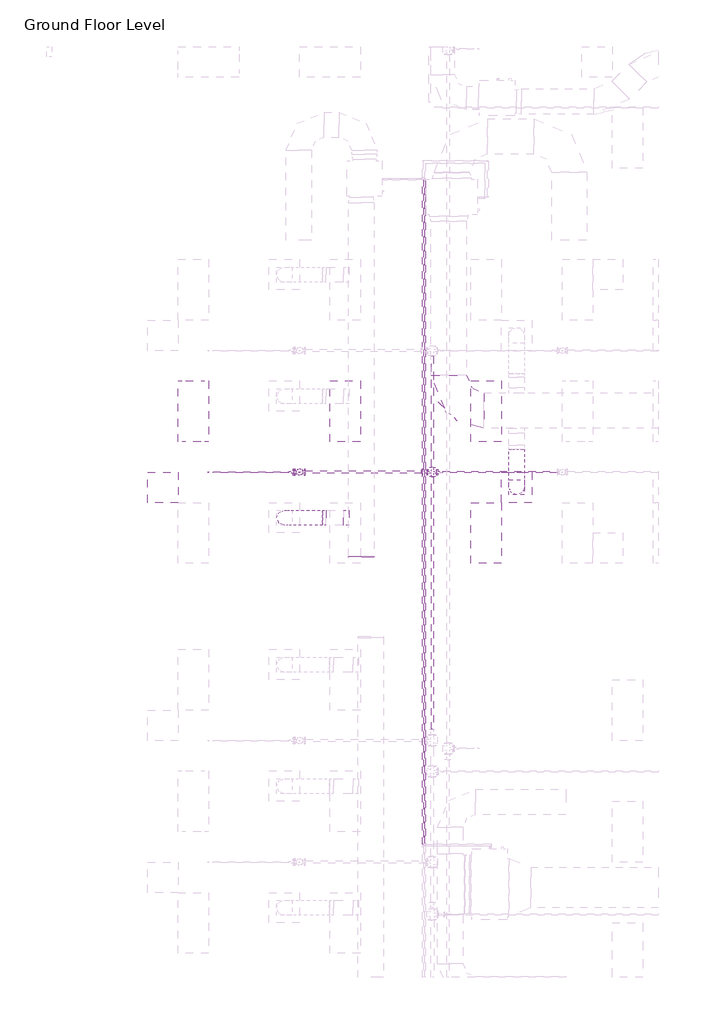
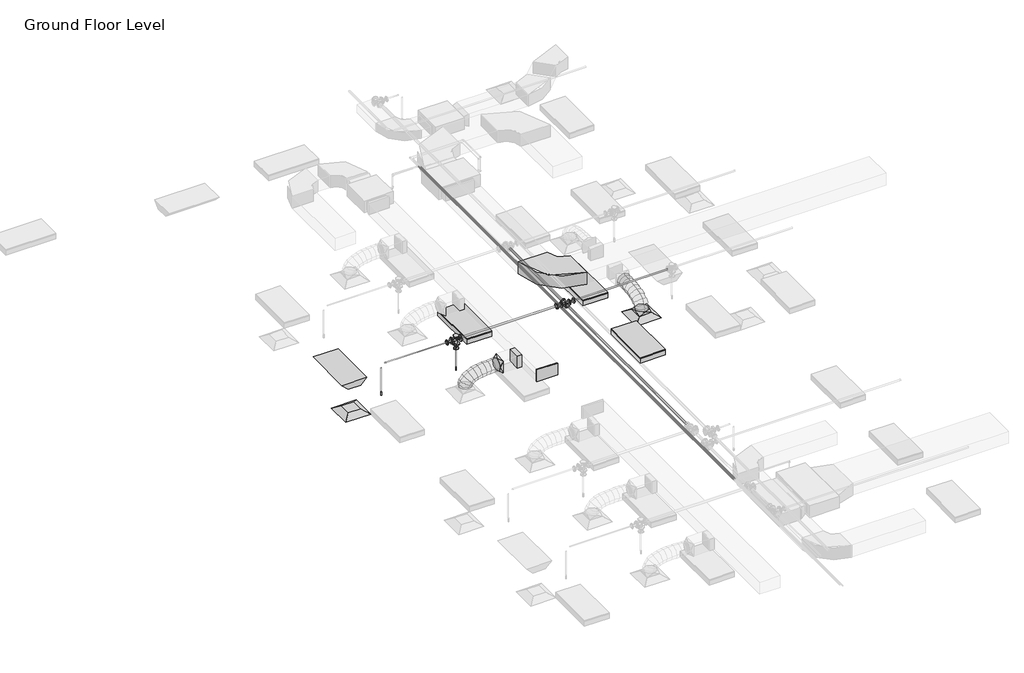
# One storey, part 29 of 68: 9 pipe segments, 6 pipe fittings, 5 duct fittings, 4 light fixtures, 2 air terminals, 2 duct segments, 2 fire suppression terminals.
"""IFC4 building model written with IfcOpenShell, lengths in millimetres."""

from ifc_helpers import new_model, si_unit, point, frame, frame_2d, origin, place, context, project, spatial, circle_curve, ellipse_curve, trimmed, segment, composite_curve, outline, extrude, transform, mapped, element, save
from ifc_brep_helpers import plane_surface, cylinder_surface, advanced_brep
from components import m_return_diffuser_600_x_600_face_300_x_300_connection_ff221211, m_rectangular_elbow_radius_1_w_8a62b27e, m_rectangular_endcap_standard_72d4d00d, m_rectangular_takeoff_standard_2be5eba1, m_rectangular_to_round_transition_angle_45_degree_641efff0, m_sprinkler_dry_pendent_hosted_15_mm_dry_pendent_9bda8e11, m_emergency_recessed_lighting_fixture_600x1200_277_5b10b25d, m_troffer_light_parabolic_rectangular1_0600x1200mm_4_lamp_86473d4a, m_cross_flanged_cs_class_150_standard_46ec961b, m_reducer_flanged_cs_class_150_standard_b6b67c23, m_reducer_flanged_cs_class_150_standard_83138b42, m_reducer_flanged_cs_class_150_standard_dc68ad9d, m_reducer_flanged_cs_class_150_standard_84a20e65, m_tee_round_base_flanged_cs_class_150_standard_ab36f383

model = new_model("IFC4")

# Units and contexts
model_context = context("Model", 3, world=origin())
ifc_project = project(units=[si_unit("LENGTHUNIT", "METRE", prefix="MILLI")], contexts=[model_context])

# Site, building, storey
site = spatial("IfcSite", under=ifc_project)
building = spatial("IfcBuilding", under=site)
storey = spatial("IfcBuildingStorey", under=building, Name="Ground Floor Level", Elevation=900.0)

# Air terminals
placement = place(None, origin())
m_return_diffuser_600_x_600_face_300_x_300_connection_shape = m_return_diffuser_600_x_600_face_300_x_300_connection_ff221211(model_context)
element("IfcAirTerminal", 1, ObjectType="M_Return Diffuser : 600 x 600 Face 300 x 300 Connection", at=placement, inside=storey, context=model_context, shape_type="MappedRepresentation", body=[
    mapped(m_return_diffuser_600_x_600_face_300_x_300_connection_shape, transform((362.7672395, -13664.7846466, 3650.0), x_axis=(1.0, 0.0, 0.0), y_axis=(0.0, 1.0, 0.0), z_axis=(0.0, 0.0, 1.0))),
])
element("IfcAirTerminal", 2, ObjectType="M_Supply Diffuser : 600 x 600 Face 300 x 300 Connection", at=placement, inside=storey, context=model_context, shape_type="MappedRepresentation", body=[
    mapped(m_return_diffuser_600_x_600_face_300_x_300_connection_shape, transform((7352.7672395, -13664.7846466, 3650.0), x_axis=(1.0, 0.0, 0.0), y_axis=(0.0, 1.0, 0.0), z_axis=(0.0, 0.0, 1.0))),
])

# Duct fittings
m_rectangular_elbow_radius_1_w_shape = m_rectangular_elbow_radius_1_w_8a62b27e(model_context)
element("IfcDuctFitting", 3, ObjectType="M_Rectangular Elbow - Radius : 1 W", at=placement, inside=storey, context=model_context, shape_type="MappedRepresentation", body=[
    mapped(m_rectangular_elbow_radius_1_w_shape, transform((6009.9139492, -12149.3358641, 4099.9875), x_axis=(0.0, -0.9999999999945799, -3.2924882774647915e-06), y_axis=(1.0000000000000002, 0.0, 0.0), z_axis=(0.0, -3.2924882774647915e-06, 0.9999999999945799))),
])
m_rectangular_endcap_standard_shape = m_rectangular_endcap_standard_72d4d00d(model_context)
element("IfcDuctFitting", 4, ObjectType="M_Rectangular Endcap : Standard", at=placement, inside=storey, context=model_context, shape_type="MappedRepresentation", body=[
    mapped(m_rectangular_endcap_standard_shape, transform((4282.1581888, -15020.4566353, 4099.9874218), x_axis=(0.0, -0.9999999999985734, -1.689189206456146e-06), y_axis=(1.0, 0.0, 0.0), z_axis=(0.0, -1.689189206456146e-06, 0.9999999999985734))),
])
m_rectangular_takeoff_standard_shape = m_rectangular_takeoff_standard_2be5eba1(model_context)
element("IfcDuctFitting", 5, ObjectType="M_Rectangular Takeoff : Standard", at=placement, inside=storey, context=model_context, shape_type="MappedRepresentation", body=[
    mapped(m_rectangular_takeoff_standard_shape, transform((4032.1581888, -14264.7846466, 4099.9887842), x_axis=(-1.0, 0.0, 0.0), y_axis=(0.0, 1.0, 0.0), z_axis=(0.0, 0.0, -1.0))),
])
m_rectangular_to_round_transition_angle_45_degree_shape = m_rectangular_to_round_transition_angle_45_degree_641efff0(model_context)
element("IfcDuctFitting", 6, ObjectType="M_Rectangular to Round Transition - Angle : 45 Degree", at=placement, inside=storey, context=model_context, shape_type="MappedRepresentation", body=[
    mapped(m_rectangular_to_round_transition_angle_45_degree_shape, transform((3590.1143866, -14264.7846466, 4099.9887842), x_axis=(-1.0, 0.0, 0.0), y_axis=(0.0, -1.0, 0.0), z_axis=(0.0, 0.0, 1.0))),
])
element("IfcDuctFitting", 7, ObjectType="M_Rectangular to Round Transition - Angle : 45 Degree", at=placement, inside=storey, context=model_context, shape_type="MappedRepresentation", body=[
    mapped(m_rectangular_to_round_transition_angle_45_degree_shape, transform((7352.7672395, -13664.7846466, 3751.6), x_axis=(0.0, 0.0, 1.0), y_axis=(-1.0, 0.0, 0.0), z_axis=(0.0, -1.0, 0.0))),
])

# Duct segments
element("IfcDuctSegment", 8, ObjectType="Flex - Round", at=placement, inside=storey, context=model_context, shape_type="AdvancedBrep", body=[
    advanced_brep(
    [(2912.7672395, -14264.7846466, 3826.6), (2762.7672395, -14414.7846466, 3826.6), (2612.7672395, -14264.7846466, 3826.6), (2762.7672395, -14114.7846466, 3826.6), (2912.7672395, -14264.7846466, 3832.2943846), (2762.7672395, -14414.7846466, 3857.9381822), (2612.7672395, -14264.7846466, 3883.5819799), (2762.7672395, -14114.7846466, 3857.9381822), (2913.5207556, -14264.7846466, 3834.4337709), (2779.783483, -14414.7846466, 3906.2507773), (2646.0462104, -14264.7846466, 3978.0677838), (2779.783483, -14114.7846466, 3906.2507773), (2931.1721896, -14264.7846466, 3857.7995724), (2826.9682101, -14414.7846466, 3968.7107998), (2722.7642305, -14264.7846466, 4079.6220272), (2826.9682101, -14114.7846466, 3968.7107998), (2967.4564457, -14264.7846466, 3881.8128947), (2898.5254153, -14414.7846466, 4016.0681503), (2829.5943848, -14264.7846466, 4150.3234058), (2898.5254153, -14114.7846466, 4016.0681503), (3032.2165497, -14264.7846466, 3906.4878092), (2988.6590932, -14414.7846466, 4050.4109116), (2945.1016367, -14264.7846466, 4194.334014), (2988.6590932, -14114.7846466, 4050.4109116), (3118.131028, -14264.7846466, 3926.0360972), (3091.5732386, -14414.7846466, 4073.8271669), (3065.0154491, -14264.7846466, 4221.6182365), (3091.5732386, -14114.7846466, 4073.8271669), (3216.6200238, -14264.7846466, 3939.1004669), (3201.4718459, -14414.7846466, 4088.4049988), (3186.3236681, -14264.7846466, 4237.7095308), (3201.4718459, -14114.7846466, 4088.4049988), (3320.0621185, -14264.7846466, 3946.3892735), (3312.55891, -14414.7846466, 4096.2324904), (3305.0557014, -14264.7846466, 4246.0757073), (3312.55891, -14114.7846466, 4096.2324904), (3421.7286729, -14264.7846466, 3949.4114365), (3419.0384253, -14414.7846466, 4099.3977246), (3416.3481777, -14264.7846466, 4249.3840127), (3419.0384253, -14114.7846466, 4099.3977246), (3516.0371696, -14264.7846466, 3949.9916227), (3515.1143866, -14414.7846466, 4099.9887842), (3514.1916035, -14264.7846466, 4249.9859457), (3515.1143866, -14114.7846466, 4099.9887842)],
    [
        (0, 1, circle_curve(frame((2762.7672395, -14264.7846466, 3826.6), z_axis=(0.0, 0.0, -1.0), x_axis=(1.0, 0.0, 0.0)), 150.0)),
        (1, 2, circle_curve(frame((2762.7672395, -14264.7846466, 3826.6), z_axis=(0.0, 0.0, -1.0), x_axis=(1.0, 0.0, 0.0)), 150.0)),
        (2, 3, circle_curve(frame((2762.7672395, -14264.7846466, 3826.6), z_axis=(0.0, 0.0, -1.0), x_axis=(1.0, 0.0, 0.0)), 150.0)),
        (3, 0, circle_curve(frame((2762.7672395, -14264.7846466, 3826.6), z_axis=(0.0, 0.0, -1.0), x_axis=(1.0, 0.0, 0.0)), 150.0)),
        (0, 4),
        (4, 5, ellipse_curve(frame((2762.7672395, -14264.7846466, 3857.9381822), z_axis=(-0.1685138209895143, 0.0, -0.9856992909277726), x_axis=(0.9856992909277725, 0.0, -0.16851382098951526)), 152.176228, 150.0)),
        (5, 1),
        (5, 6, ellipse_curve(frame((2762.7672395, -14264.7846466, 3857.9381822), z_axis=(-0.1685138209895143, 0.0, -0.9856992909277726), x_axis=(0.9856992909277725, 0.0, -0.16851382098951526)), 152.176228, 150.0)),
        (6, 2),
        (6, 7, ellipse_curve(frame((2762.7672395, -14264.7846466, 3857.9381822), z_axis=(-0.1685138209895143, 0.0, -0.9856992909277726), x_axis=(0.9856992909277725, 0.0, -0.16851382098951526)), 152.176228, 150.0)),
        (7, 3),
        (7, 4, ellipse_curve(frame((2762.7672395, -14264.7846466, 3857.9381822), z_axis=(-0.1685138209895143, 0.0, -0.9856992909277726), x_axis=(0.9856992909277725, 0.0, -0.16851382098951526)), 152.176228, 150.0)),
        (4, 8),
        (8, 9, ellipse_curve(frame((2779.783483, -14264.7846466, 3906.2507773), z_axis=(-0.47310177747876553, 0.0, -0.881007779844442), x_axis=(0.8810077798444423, 0.0, -0.4731017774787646)), 151.800331, 150.0)),
        (9, 5),
        (9, 10, ellipse_curve(frame((2779.783483, -14264.7846466, 3906.2507773), z_axis=(-0.47310177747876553, 0.0, -0.881007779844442), x_axis=(0.8810077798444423, 0.0, -0.4731017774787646)), 151.800331, 150.0)),
        (10, 6),
        (10, 11, ellipse_curve(frame((2779.783483, -14264.7846466, 3906.2507773), z_axis=(-0.47310177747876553, 0.0, -0.881007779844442), x_axis=(0.8810077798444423, 0.0, -0.4731017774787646)), 151.800331, 150.0)),
        (11, 7),
        (11, 8, ellipse_curve(frame((2779.783483, -14264.7846466, 3906.2507773), z_axis=(-0.47310177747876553, 0.0, -0.881007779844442), x_axis=(0.8810077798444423, 0.0, -0.4731017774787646)), 151.800331, 150.0)),
        (8, 12),
        (12, 13, ellipse_curve(frame((2826.9682101, -14264.7846466, 3968.7107998), z_axis=(-0.7288000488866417, 0.0, -0.6847265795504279), x_axis=(0.6847265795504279, 0.0, -0.7288000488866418)), 152.1833424, 150.0)),
        (13, 9),
        (13, 14, ellipse_curve(frame((2826.9682101, -14264.7846466, 3968.7107998), z_axis=(-0.7288000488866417, 0.0, -0.6847265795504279), x_axis=(0.6847265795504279, 0.0, -0.7288000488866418)), 152.1833424, 150.0)),
        (14, 10),
        (14, 15, ellipse_curve(frame((2826.9682101, -14264.7846466, 3968.7107998), z_axis=(-0.7288000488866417, 0.0, -0.6847265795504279), x_axis=(0.6847265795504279, 0.0, -0.7288000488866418)), 152.1833424, 150.0)),
        (15, 11),
        (15, 12, ellipse_curve(frame((2826.9682101, -14264.7846466, 3968.7107998), z_axis=(-0.7288000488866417, 0.0, -0.6847265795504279), x_axis=(0.6847265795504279, 0.0, -0.7288000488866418)), 152.1833424, 150.0)),
        (12, 16),
        (16, 17, ellipse_curve(frame((2898.5254153, -14264.7846466, 4016.0681503), z_axis=(-0.8895962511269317, 0.0, -0.45674775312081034), x_axis=(0.45674775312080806, 0.0, -0.889596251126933)), 150.9170653, 150.0)),
        (17, 13),
        (17, 18, ellipse_curve(frame((2898.5254153, -14264.7846466, 4016.0681503), z_axis=(-0.8895962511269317, 0.0, -0.45674775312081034), x_axis=(0.45674775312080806, 0.0, -0.889596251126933)), 150.9170653, 150.0)),
        (18, 14),
        (18, 19, ellipse_curve(frame((2898.5254153, -14264.7846466, 4016.0681503), z_axis=(-0.8895962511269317, 0.0, -0.45674775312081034), x_axis=(0.45674775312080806, 0.0, -0.889596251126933)), 150.9170653, 150.0)),
        (19, 15),
        (19, 16, ellipse_curve(frame((2898.5254153, -14264.7846466, 4016.0681503), z_axis=(-0.8895962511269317, 0.0, -0.45674775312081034), x_axis=(0.45674775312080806, 0.0, -0.889596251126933)), 150.9170653, 150.0)),
        (16, 20),
        (20, 21, ellipse_curve(frame((2988.6590932, -14264.7846466, 4050.4109116), z_axis=(-0.9571269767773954, 0.0, -0.28966869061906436), x_axis=(0.28966869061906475, 0.0, -0.9571269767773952)), 150.3699153, 150.0)),
        (21, 17),
        (21, 22, ellipse_curve(frame((2988.6590932, -14264.7846466, 4050.4109116), z_axis=(-0.9571269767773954, 0.0, -0.28966869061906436), x_axis=(0.28966869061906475, 0.0, -0.9571269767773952)), 150.3699153, 150.0)),
        (22, 18),
        (22, 23, ellipse_curve(frame((2988.6590932, -14264.7846466, 4050.4109116), z_axis=(-0.9571269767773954, 0.0, -0.28966869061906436), x_axis=(0.28966869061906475, 0.0, -0.9571269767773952)), 150.3699153, 150.0)),
        (23, 19),
        (23, 20, ellipse_curve(frame((2988.6590932, -14264.7846466, 4050.4109116), z_axis=(-0.9571269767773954, 0.0, -0.28966869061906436), x_axis=(0.28966869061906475, 0.0, -0.9571269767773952)), 150.3699153, 150.0)),
        (20, 24),
        (24, 25, ellipse_curve(frame((3091.5732386, -14264.7846466, 4073.8271669), z_axis=(-0.9842350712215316, 0.0, -0.17686527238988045), x_axis=(0.1768652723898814, 0.0, -0.9842350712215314)), 150.1583046, 150.0)),
        (25, 21),
        (25, 26, ellipse_curve(frame((3091.5732386, -14264.7846466, 4073.8271669), z_axis=(-0.9842350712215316, 0.0, -0.17686527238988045), x_axis=(0.1768652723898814, 0.0, -0.9842350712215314)), 150.1583046, 150.0)),
        (26, 22),
        (26, 27, ellipse_curve(frame((3091.5732386, -14264.7846466, 4073.8271669), z_axis=(-0.9842350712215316, 0.0, -0.17686527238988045), x_axis=(0.1768652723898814, 0.0, -0.9842350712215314)), 150.1583046, 150.0)),
        (27, 23),
        (27, 24, ellipse_curve(frame((3091.5732386, -14264.7846466, 4073.8271669), z_axis=(-0.9842350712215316, 0.0, -0.17686527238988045), x_axis=(0.1768652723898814, 0.0, -0.9842350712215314)), 150.1583046, 150.0)),
        (24, 28),
        (28, 29, ellipse_curve(frame((3201.4718459, -14264.7846466, 4088.4049988), z_axis=(-0.994892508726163, 0.0, -0.10094006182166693), x_axis=(0.10094006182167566, 0.0, -0.9948925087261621)), 150.0710184, 150.0)),
        (29, 25),
        (29, 30, ellipse_curve(frame((3201.4718459, -14264.7846466, 4088.4049988), z_axis=(-0.994892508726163, 0.0, -0.10094006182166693), x_axis=(0.10094006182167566, 0.0, -0.9948925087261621)), 150.0710184, 150.0)),
        (30, 26),
        (30, 31, ellipse_curve(frame((3201.4718459, -14264.7846466, 4088.4049988), z_axis=(-0.994892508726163, 0.0, -0.10094006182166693), x_axis=(0.10094006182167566, 0.0, -0.9948925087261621)), 150.0710184, 150.0)),
        (31, 27),
        (31, 28, ellipse_curve(frame((3201.4718459, -14264.7846466, 4088.4049988), z_axis=(-0.994892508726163, 0.0, -0.10094006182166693), x_axis=(0.10094006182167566, 0.0, -0.9948925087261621)), 150.0710184, 150.0)),
        (28, 32),
        (32, 33, ellipse_curve(frame((3312.55891, -14264.7846466, 4096.2324904), z_axis=(-0.998748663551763, 0.0, -0.05001106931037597), x_axis=(0.050011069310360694, 0.0, -0.998748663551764)), 150.0309561, 150.0)),
        (33, 29),
        (33, 34, ellipse_curve(frame((3312.55891, -14264.7846466, 4096.2324904), z_axis=(-0.998748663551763, 0.0, -0.05001106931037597), x_axis=(0.050011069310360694, 0.0, -0.998748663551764)), 150.0309561, 150.0)),
        (34, 30),
        (34, 35, ellipse_curve(frame((3312.55891, -14264.7846466, 4096.2324904), z_axis=(-0.998748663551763, 0.0, -0.05001106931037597), x_axis=(0.050011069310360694, 0.0, -0.998748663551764)), 150.0309561, 150.0)),
        (35, 31),
        (35, 32, ellipse_curve(frame((3312.55891, -14264.7846466, 4096.2324904), z_axis=(-0.998748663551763, 0.0, -0.05001106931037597), x_axis=(0.050011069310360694, 0.0, -0.998748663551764)), 150.0309561, 150.0)),
        (32, 36),
        (36, 37, ellipse_curve(frame((3419.0384253, -14264.7846466, 4099.3977246), z_axis=(-0.9998391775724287, 0.0, -0.01793373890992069), x_axis=(0.017933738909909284, 1.8193051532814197e-12, -0.9998391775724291)), 150.0104131, 150.0)),
        (37, 33),
        (37, 38, ellipse_curve(frame((3419.0384253, -14264.7846466, 4099.3977246), z_axis=(-0.9998391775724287, 0.0, -0.01793373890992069), x_axis=(0.017933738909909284, 1.8193051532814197e-12, -0.9998391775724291)), 150.0104131, 150.0)),
        (38, 34),
        (38, 39, ellipse_curve(frame((3419.0384253, -14264.7846466, 4099.3977246), z_axis=(-0.9998391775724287, 0.0, -0.01793373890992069), x_axis=(0.017933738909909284, 1.8193051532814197e-12, -0.9998391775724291)), 150.0104131, 150.0)),
        (39, 35),
        (39, 36, ellipse_curve(frame((3419.0384253, -14264.7846466, 4099.3977246), z_axis=(-0.9998391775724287, 0.0, -0.01793373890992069), x_axis=(0.017933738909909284, 1.8193051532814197e-12, -0.9998391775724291)), 150.0104131, 150.0)),
        (36, 40),
        (40, 41, circle_curve(frame((3515.1143866, -14264.7846466, 4099.9887842), z_axis=(-0.9999810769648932, 0.0, -0.0061518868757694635), x_axis=(0.0061518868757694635, 0.0, -0.9999810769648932)), 150.0)),
        (41, 37),
        (41, 42, circle_curve(frame((3515.1143866, -14264.7846466, 4099.9887842), z_axis=(-0.9999810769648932, 0.0, -0.0061518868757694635), x_axis=(0.0061518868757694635, 0.0, -0.9999810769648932)), 150.0)),
        (42, 38),
        (42, 43, circle_curve(frame((3515.1143866, -14264.7846466, 4099.9887842), z_axis=(-0.9999810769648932, 0.0, -0.0061518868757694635), x_axis=(0.0061518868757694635, 0.0, -0.9999810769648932)), 150.0)),
        (43, 39),
        (43, 40, circle_curve(frame((3515.1143866, -14264.7846466, 4099.9887842), z_axis=(-0.9999810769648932, 0.0, -0.0061518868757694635), x_axis=(0.0061518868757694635, 0.0, -0.9999810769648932)), 150.0)),
    ],
    [
        plane_surface(frame((2762.7672395, -14414.7846466, 3826.6), z_axis=(0.0, 0.0, -1.0), x_axis=(1.0, 0.0, 0.0))),
        cylinder_surface(frame((2762.7672395, -14264.7846466, 3826.6), z_axis=(0.0, 0.0, -1.0), x_axis=(1.0, 0.0, 0.0)), 150.0),
        cylinder_surface(frame((2762.7672395, -14264.7846466, 3857.9381822), z_axis=(-0.33220790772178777, 0.0, -0.9432061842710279), x_axis=(0.9432061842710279, 0.0, -0.33220790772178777)), 150.0),
        cylinder_surface(frame((2779.783483, -14264.7846466, 3906.2507773), z_axis=(-0.6027738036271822, 0.0, -0.7979121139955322), x_axis=(0.7979121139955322, 0.0, -0.6027738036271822)), 150.0),
        cylinder_surface(frame((2826.9682101, -14264.7846466, 3968.7107998), z_axis=(-0.8339144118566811, 0.0, -0.5518937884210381), x_axis=(0.5518937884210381, 0.0, -0.8339144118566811)), 150.0),
        cylinder_surface(frame((2898.5254153, -14264.7846466, 4016.0681503), z_axis=(-0.9344666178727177, 0.0, -0.35605075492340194), x_axis=(0.35605075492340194, 0.0, -0.9344666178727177)), 150.0),
        cylinder_surface(frame((2988.6590932, -14264.7846466, 4050.4109116), z_axis=(-0.9750782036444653, 0.0, -0.22186143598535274), x_axis=(0.22186143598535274, 0.0, -0.9750782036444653)), 150.0),
        cylinder_surface(frame((3091.5732386, -14264.7846466, 4073.8271669), z_axis=(-0.9913166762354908, 0.0, -0.1314961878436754), x_axis=(0.1314961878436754, 0.0, -0.9913166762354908)), 150.0),
        cylinder_surface(frame((3201.4718459, -14264.7846466, 4088.4049988), z_axis=(-0.9975267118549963, 0.0, -0.07028839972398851), x_axis=(0.07028839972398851, 0.0, -0.9975267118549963)), 150.0),
        cylinder_surface(frame((3312.55891, -14264.7846466, 4096.2324904), z_axis=(-0.9995584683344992, 0.0, -0.02971310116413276), x_axis=(0.02971310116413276, 0.0, -0.9995584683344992)), 150.0),
        cylinder_surface(frame((3419.0384253, -14264.7846466, 4099.3977246), z_axis=(-0.9999810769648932, 0.0, -0.0061518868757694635), x_axis=(0.0061518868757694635, 0.0, -0.9999810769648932)), 150.0),
        plane_surface(frame((3515.1143866, -14414.7846466, 4099.9887842), z_axis=(0.9999810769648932, 0.0, 0.006151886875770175), x_axis=(0.006151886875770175, -3.666400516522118e-12, -0.9999810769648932))),
    ],
    [
        (0, [[1, 2, 3, 4]]),
        (1, [[-1, 5, 6, 7]]),
        (1, [[-2, -7, 8, 9]]),
        (1, [[-3, -9, 10, 11]]),
        (1, [[-4, -11, 12, -5]]),
        (2, [[-6, 13, 14, 15]]),
        (2, [[-8, -15, 16, 17]]),
        (2, [[-10, -17, 18, 19]]),
        (2, [[-12, -19, 20, -13]]),
        (3, [[-14, 21, 22, 23]]),
        (3, [[-16, -23, 24, 25]]),
        (3, [[-18, -25, 26, 27]]),
        (3, [[-20, -27, 28, -21]]),
        (4, [[-22, 29, 30, 31]]),
        (4, [[-24, -31, 32, 33]]),
        (4, [[-26, -33, 34, 35]]),
        (4, [[-28, -35, 36, -29]]),
        (5, [[-30, 37, 38, 39]]),
        (5, [[-32, -39, 40, 41]]),
        (5, [[-34, -41, 42, 43]]),
        (5, [[-36, -43, 44, -37]]),
        (6, [[-38, 45, 46, 47]]),
        (6, [[-40, -47, 48, 49]]),
        (6, [[-42, -49, 50, 51]]),
        (6, [[-44, -51, 52, -45]]),
        (7, [[-46, 53, 54, 55]]),
        (7, [[-48, -55, 56, 57]]),
        (7, [[-50, -57, 58, 59]]),
        (7, [[-52, -59, 60, -53]]),
        (8, [[-54, 61, 62, 63]]),
        (8, [[-56, -63, 64, 65]]),
        (8, [[-58, -65, 66, 67]]),
        (8, [[-60, -67, 68, -61]]),
        (9, [[-62, 69, 70, 71]]),
        (9, [[-64, -71, 72, 73]]),
        (9, [[-66, -73, 74, 75]]),
        (9, [[-68, -75, 76, -69]]),
        (10, [[-70, 77, 78, 79]]),
        (10, [[-72, -79, 80, 81]]),
        (10, [[-74, -81, 82, 83]]),
        (10, [[-76, -83, 84, -77]]),
        (11, [[-84, -82, -80, -78]]),
    ],
),
])
element("IfcDuctSegment", 9, ObjectType="Flex - Round", at=placement, inside=storey, context=model_context, shape_type="AdvancedBrep", body=[
    advanced_brep(
    [(7502.7672395, -13664.7846466, 3826.6), (7352.7672395, -13814.7846466, 3826.6), (7202.7672395, -13664.7846466, 3826.6), (7352.7672395, -13514.7846466, 3826.6), (7502.7672395, -13664.7846466, 3857.9382361), (7352.7672395, -13814.7846466, 3883.5820996), (7202.7672395, -13664.7846466, 3857.9382361), (7352.7672395, -13514.7846466, 3832.2943726), (7502.7672395, -13647.7683675, 3906.2508008), (7352.7672395, -13781.5055592, 3978.0679769), (7202.7672395, -13647.7683675, 3906.2508008), (7352.7672395, -13514.0311758, 3834.4336246), (7502.7672395, -13600.5835435, 3968.710741), (7352.7672395, -13704.7873032, 4079.6221903), (7202.7672395, -13600.5835435, 3968.710741), (7352.7672395, -13496.3797837, 3857.7992917), (7502.7672395, -13529.0261948, 4016.0679312), (7352.7672395, -13597.9568789, 4150.3233665), (7202.7672395, -13529.0261948, 4016.0679312), (7352.7672395, -13460.0955107, 3881.8124958), (7502.7672395, -13438.8923417, 4050.4104815), (7352.7672395, -13482.4494195, 4194.3336978), (7202.7672395, -13438.8923417, 4050.4104815), (7352.7672395, -13395.3352638, 3906.4872652), (7502.7672395, -13335.9780043, 4073.8265025), (7352.7672395, -13362.5354348, 4221.6176356), (7202.7672395, -13335.9780043, 4073.8265025), (7352.7672395, -13309.4205737, 3926.0353694), (7502.7672395, -13226.0792027, 4088.4041045), (7352.7672395, -13241.2270687, 4237.7086671), (7202.7672395, -13226.0792027, 4088.4041045), (7352.7672395, -13210.9313368, 3939.0995418), (7502.7672395, -13114.9919573, 4096.2313978), (7352.7672395, -13122.4949231, 4246.074626), (7202.7672395, -13114.9919573, 4096.2313978), (7352.7672395, -13107.4889914, 3946.3881695), (7502.7672395, -13008.5122881, 4099.3964928), (7352.7672395, -13011.2023931, 4249.3827828), (7202.7672395, -13008.5122881, 4099.3964928), (7352.7672395, -13005.8221831, 3949.4102029), (7502.7672395, -12912.4362153, 4099.9875), (7352.7672395, -12911.5135153, 3949.9903379), (7202.7672395, -12912.4362153, 4099.9875), (7352.7672395, -12913.3589154, 4249.9846621)],
    [
        (0, 1, circle_curve(frame((7352.7672395, -13664.7846466, 3826.6), z_axis=(0.0, 0.0, -1.0), x_axis=(1.0, 0.0, 0.0)), 150.0)),
        (1, 2, circle_curve(frame((7352.7672395, -13664.7846466, 3826.6), z_axis=(0.0, 0.0, -1.0), x_axis=(1.0, 0.0, 0.0)), 150.0)),
        (2, 3, circle_curve(frame((7352.7672395, -13664.7846466, 3826.6), z_axis=(0.0, 0.0, -1.0), x_axis=(1.0, 0.0, 0.0)), 150.0)),
        (3, 0, circle_curve(frame((7352.7672395, -13664.7846466, 3826.6), z_axis=(0.0, 0.0, -1.0), x_axis=(1.0, 0.0, 0.0)), 150.0)),
        (0, 4),
        (4, 5, ellipse_curve(frame((7352.7672395, -13664.7846466, 3857.9382361), z_axis=(0.0, -0.16851424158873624, -0.9856992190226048), x_axis=(0.0, 0.9856992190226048, -0.16851424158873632)), 152.1762391, 150.0)),
        (5, 1),
        (5, 6, ellipse_curve(frame((7352.7672395, -13664.7846466, 3857.9382361), z_axis=(0.0, -0.16851424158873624, -0.9856992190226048), x_axis=(0.0, 0.9856992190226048, -0.16851424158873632)), 152.1762391, 150.0)),
        (6, 2),
        (6, 7, ellipse_curve(frame((7352.7672395, -13664.7846466, 3857.9382361), z_axis=(0.0, -0.16851424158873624, -0.9856992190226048), x_axis=(0.0, 0.9856992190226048, -0.16851424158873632)), 152.1762391, 150.0)),
        (7, 3),
        (7, 4, ellipse_curve(frame((7352.7672395, -13664.7846466, 3857.9382361), z_axis=(0.0, -0.16851424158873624, -0.9856992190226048), x_axis=(0.0, 0.9856992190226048, -0.16851424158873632)), 152.1762391, 150.0)),
        (4, 8),
        (8, 9, ellipse_curve(frame((7352.7672395, -13647.7683675, 3906.2508008), z_axis=(0.0, -0.4731028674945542, -0.8810071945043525), x_axis=(0.0, 0.8810071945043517, -0.47310286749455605)), 151.80034, 150.0)),
        (9, 5),
        (9, 10, ellipse_curve(frame((7352.7672395, -13647.7683675, 3906.2508008), z_axis=(0.0, -0.4731028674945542, -0.8810071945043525), x_axis=(0.0, 0.8810071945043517, -0.47310286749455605)), 151.80034, 150.0)),
        (10, 6),
        (10, 11, ellipse_curve(frame((7352.7672395, -13647.7683675, 3906.2508008), z_axis=(0.0, -0.4731028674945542, -0.8810071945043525), x_axis=(0.0, 0.8810071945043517, -0.47310286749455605)), 151.80034, 150.0)),
        (11, 7),
        (11, 8, ellipse_curve(frame((7352.7672395, -13647.7683675, 3906.2508008), z_axis=(0.0, -0.4731028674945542, -0.8810071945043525), x_axis=(0.0, 0.8810071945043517, -0.47310286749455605)), 151.80034, 150.0)),
        (8, 12),
        (12, 13, ellipse_curve(frame((7352.7672395, -13600.5835435, 3968.710741), z_axis=(0.0, -0.728801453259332, -0.6847250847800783), x_axis=(0.0, 0.6847250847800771, -0.7288014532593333)), 152.1833536, 150.0)),
        (13, 9),
        (13, 14, ellipse_curve(frame((7352.7672395, -13600.5835435, 3968.710741), z_axis=(0.0, -0.728801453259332, -0.6847250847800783), x_axis=(0.0, 0.6847250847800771, -0.7288014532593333)), 152.1833536, 150.0)),
        (14, 10),
        (14, 15, ellipse_curve(frame((7352.7672395, -13600.5835435, 3968.710741), z_axis=(0.0, -0.728801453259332, -0.6847250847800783), x_axis=(0.0, 0.6847250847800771, -0.7288014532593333)), 152.1833536, 150.0)),
        (15, 11),
        (15, 12, ellipse_curve(frame((7352.7672395, -13600.5835435, 3968.710741), z_axis=(0.0, -0.728801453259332, -0.6847250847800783), x_axis=(0.0, 0.6847250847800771, -0.7288014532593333)), 152.1833536, 150.0)),
        (12, 16),
        (16, 17, ellipse_curve(frame((7352.7672395, -13529.0261948, 4016.0679312), z_axis=(0.0, -0.889597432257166, -0.45674545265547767), x_axis=(0.0, 0.4567454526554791, -0.8895974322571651)), 150.9170671, 150.0)),
        (17, 13),
        (17, 18, ellipse_curve(frame((7352.7672395, -13529.0261948, 4016.0679312), z_axis=(0.0, -0.889597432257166, -0.45674545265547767), x_axis=(0.0, 0.4567454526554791, -0.8895974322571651)), 150.9170671, 150.0)),
        (18, 14),
        (18, 19, ellipse_curve(frame((7352.7672395, -13529.0261948, 4016.0679312), z_axis=(0.0, -0.889597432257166, -0.45674545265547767), x_axis=(0.0, 0.4567454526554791, -0.8895974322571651)), 150.9170671, 150.0)),
        (19, 15),
        (19, 16, ellipse_curve(frame((7352.7672395, -13529.0261948, 4016.0679312), z_axis=(0.0, -0.889597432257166, -0.45674545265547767), x_axis=(0.0, 0.4567454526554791, -0.8895974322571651)), 150.9170671, 150.0)),
        (16, 20),
        (20, 21, ellipse_curve(frame((7352.7672395, -13438.8923417, 4050.4104815), z_axis=(0.0, -0.9571277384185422, -0.28966617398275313), x_axis=(0.0, 0.28966617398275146, -0.9571277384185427)), 150.3699146, 150.0)),
        (21, 17),
        (21, 22, ellipse_curve(frame((7352.7672395, -13438.8923417, 4050.4104815), z_axis=(0.0, -0.9571277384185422, -0.28966617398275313), x_axis=(0.0, 0.28966617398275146, -0.9571277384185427)), 150.3699146, 150.0)),
        (22, 18),
        (22, 23, ellipse_curve(frame((7352.7672395, -13438.8923417, 4050.4104815), z_axis=(0.0, -0.9571277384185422, -0.28966617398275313), x_axis=(0.0, 0.28966617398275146, -0.9571277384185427)), 150.3699146, 150.0)),
        (23, 19),
        (23, 20, ellipse_curve(frame((7352.7672395, -13438.8923417, 4050.4104815), z_axis=(0.0, -0.9571277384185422, -0.28966617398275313), x_axis=(0.0, 0.28966617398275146, -0.9571277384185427)), 150.3699146, 150.0)),
        (20, 24),
        (24, 25, ellipse_curve(frame((7352.7672395, -13335.9780043, 4073.8265025), z_axis=(0.0, -0.9842355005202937, -0.17686288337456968), x_axis=(0.0, 0.17686288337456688, -0.9842355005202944)), 150.1583036, 150.0)),
        (25, 21),
        (25, 26, ellipse_curve(frame((7352.7672395, -13335.9780043, 4073.8265025), z_axis=(0.0, -0.9842355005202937, -0.17686288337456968), x_axis=(0.0, 0.17686288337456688, -0.9842355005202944)), 150.1583036, 150.0)),
        (26, 22),
        (26, 27, ellipse_curve(frame((7352.7672395, -13335.9780043, 4073.8265025), z_axis=(0.0, -0.9842355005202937, -0.17686288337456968), x_axis=(0.0, 0.17686288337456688, -0.9842355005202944)), 150.1583036, 150.0)),
        (27, 23),
        (27, 24, ellipse_curve(frame((7352.7672395, -13335.9780043, 4073.8265025), z_axis=(0.0, -0.9842355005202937, -0.17686288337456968), x_axis=(0.0, 0.17686288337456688, -0.9842355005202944)), 150.1583036, 150.0)),
        (24, 28),
        (28, 29, ellipse_curve(frame((7352.7672395, -13226.0792027, 4088.4041045), z_axis=(0.0, -0.9948927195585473, -0.10093798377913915), x_axis=(0.0, 0.10093798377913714, -0.9948927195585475)), 150.0710174, 150.0)),
        (29, 25),
        (29, 30, ellipse_curve(frame((7352.7672395, -13226.0792027, 4088.4041045), z_axis=(0.0, -0.9948927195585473, -0.10093798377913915), x_axis=(0.0, 0.10093798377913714, -0.9948927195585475)), 150.0710174, 150.0)),
        (30, 26),
        (30, 31, ellipse_curve(frame((7352.7672395, -13226.0792027, 4088.4041045), z_axis=(0.0, -0.9948927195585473, -0.10093798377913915), x_axis=(0.0, 0.10093798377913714, -0.9948927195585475)), 150.0710174, 150.0)),
        (31, 27),
        (31, 28, ellipse_curve(frame((7352.7672395, -13226.0792027, 4088.4041045), z_axis=(0.0, -0.9948927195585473, -0.10093798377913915), x_axis=(0.0, 0.10093798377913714, -0.9948927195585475)), 150.0710174, 150.0)),
        (28, 32),
        (32, 33, ellipse_curve(frame((7352.7672395, -13114.9919573, 4096.2313978), z_axis=(0.0, -0.9987487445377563, -0.050009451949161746), x_axis=(0.0, 0.05000945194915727, -0.9987487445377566)), 150.0309553, 150.0)),
        (33, 29),
        (33, 34, ellipse_curve(frame((7352.7672395, -13114.9919573, 4096.2313978), z_axis=(0.0, -0.9987487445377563, -0.050009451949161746), x_axis=(0.0, 0.05000945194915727, -0.9987487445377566)), 150.0309553, 150.0)),
        (34, 30),
        (34, 35, ellipse_curve(frame((7352.7672395, -13114.9919573, 4096.2313978), z_axis=(0.0, -0.9987487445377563, -0.050009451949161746), x_axis=(0.0, 0.05000945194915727, -0.9987487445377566)), 150.0309553, 150.0)),
        (35, 31),
        (35, 32, ellipse_curve(frame((7352.7672395, -13114.9919573, 4096.2313978), z_axis=(0.0, -0.9987487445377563, -0.050009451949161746), x_axis=(0.0, 0.05000945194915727, -0.9987487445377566)), 150.0309553, 150.0)),
        (32, 36),
        (36, 37, ellipse_curve(frame((7352.7672395, -13008.5122881, 4099.3964928), z_axis=(0.0, -0.9998391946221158, -0.017932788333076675), x_axis=(0.0, 0.01793278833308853, -0.9998391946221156)), 150.0104124, 150.0)),
        (37, 33),
        (37, 38, ellipse_curve(frame((7352.7672395, -13008.5122881, 4099.3964928), z_axis=(0.0, -0.9998391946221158, -0.017932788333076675), x_axis=(0.0, 0.01793278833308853, -0.9998391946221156)), 150.0104124, 150.0)),
        (38, 34),
        (38, 39, ellipse_curve(frame((7352.7672395, -13008.5122881, 4099.3964928), z_axis=(0.0, -0.9998391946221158, -0.017932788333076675), x_axis=(0.0, 0.01793278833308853, -0.9998391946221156)), 150.0104124, 150.0)),
        (39, 35),
        (39, 36, ellipse_curve(frame((7352.7672395, -13008.5122881, 4099.3964928), z_axis=(0.0, -0.9998391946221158, -0.017932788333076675), x_axis=(0.0, 0.01793278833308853, -0.9998391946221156)), 150.0104124, 150.0)),
        (40, 41, circle_curve(frame((7352.7672395, -12912.4362153, 4099.9875), z_axis=(0.0, 0.9999810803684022, 0.0061513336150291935), x_axis=(1.0, 0.0, 0.0)), 150.0)),
        (41, 42, circle_curve(frame((7352.7672395, -12912.4362153, 4099.9875), z_axis=(0.0, 0.9999810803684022, 0.0061513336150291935), x_axis=(1.0, 0.0, 0.0)), 150.0)),
        (42, 43, circle_curve(frame((7352.7672395, -12912.4362153, 4099.9875), z_axis=(0.0, 0.9999810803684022, 0.0061513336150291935), x_axis=(1.0, 0.0, 0.0)), 150.0)),
        (43, 40, circle_curve(frame((7352.7672395, -12912.4362153, 4099.9875), z_axis=(0.0, 0.9999810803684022, 0.0061513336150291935), x_axis=(1.0, 0.0, 0.0)), 150.0)),
        (36, 40),
        (43, 37),
        (42, 38),
        (41, 39),
    ],
    [
        plane_surface(frame((7352.7672395, -13814.7846466, 3826.6), z_axis=(0.0, 0.0, -1.0), x_axis=(1.0, 0.0, 0.0))),
        cylinder_surface(frame((7352.7672395, -13664.7846466, 3826.6), z_axis=(0.0, 0.0, -1.0), x_axis=(1.0, 0.0, 0.0)), 150.0),
        cylinder_surface(frame((7352.7672395, -13664.7846466, 3857.9382361), z_axis=(0.0, -0.3322087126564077, -0.943205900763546), x_axis=(1.0, 0.0, 0.0)), 150.0),
        cylinder_surface(frame((7352.7672395, -13647.7683675, 3906.2508008), z_axis=(0.0, -0.6027750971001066, -0.797911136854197), x_axis=(1.0, 0.0, 0.0)), 150.0),
        cylinder_surface(frame((7352.7672395, -13600.5835435, 3968.710741), z_axis=(0.0, -0.8339157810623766, -0.5518917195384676), x_axis=(1.0, 0.0, 0.0)), 150.0),
        cylinder_surface(frame((7352.7672395, -13529.0261948, 4016.0679312), z_axis=(0.0, -0.9344675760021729, -0.3560482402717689), x_axis=(1.0, 0.0, 0.0)), 150.0),
        cylinder_surface(frame((7352.7672395, -13438.8923417, 4050.4104815), z_axis=(0.0, -0.9750787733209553, -0.2218589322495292), x_axis=(1.0, 0.0, 0.0)), 150.0),
        cylinder_surface(frame((7352.7672395, -13335.9780043, 4073.8265025), z_axis=(0.0, -0.9913169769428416, -0.13149392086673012), x_axis=(1.0, 0.0, 0.0)), 150.0),
        cylinder_surface(frame((7352.7672395, -13226.0792027, 4088.4041045), z_axis=(0.0, -0.9975268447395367, -0.07028651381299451), x_axis=(1.0, 0.0, 0.0)), 150.0),
        cylinder_surface(frame((7352.7672395, -13114.9919573, 4096.2313978), z_axis=(0.0, -0.999558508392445, -0.02971175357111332), x_axis=(1.0, 0.0, 0.0)), 150.0),
        plane_surface(frame((7352.7672395, -12913.3589154, 4249.9846621), z_axis=(0.0, 0.9999810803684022, 0.006151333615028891), x_axis=(1.0, 0.0, 0.0))),
        cylinder_surface(frame((7352.7672395, -13008.5122881, 4099.3964928), z_axis=(0.0, -0.9999810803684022, -0.0061513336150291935), x_axis=(1.0, 0.0, 0.0)), 150.0),
    ],
    [
        (0, [[1, 2, 3, 4]]),
        (1, [[-1, 5, 6, 7]]),
        (1, [[-2, -7, 8, 9]]),
        (1, [[-3, -9, 10, 11]]),
        (1, [[-4, -11, 12, -5]]),
        (2, [[-6, 13, 14, 15]]),
        (2, [[-8, -15, 16, 17]]),
        (2, [[-10, -17, 18, 19]]),
        (2, [[-12, -19, 20, -13]]),
        (3, [[-14, 21, 22, 23]]),
        (3, [[-16, -23, 24, 25]]),
        (3, [[-18, -25, 26, 27]]),
        (3, [[-20, -27, 28, -21]]),
        (4, [[-22, 29, 30, 31]]),
        (4, [[-24, -31, 32, 33]]),
        (4, [[-26, -33, 34, 35]]),
        (4, [[-28, -35, 36, -29]]),
        (5, [[-30, 37, 38, 39]]),
        (5, [[-32, -39, 40, 41]]),
        (5, [[-34, -41, 42, 43]]),
        (5, [[-36, -43, 44, -37]]),
        (6, [[-38, 45, 46, 47]]),
        (6, [[-40, -47, 48, 49]]),
        (6, [[-42, -49, 50, 51]]),
        (6, [[-44, -51, 52, -45]]),
        (7, [[-46, 53, 54, 55]]),
        (7, [[-48, -55, 56, 57]]),
        (7, [[-50, -57, 58, 59]]),
        (7, [[-52, -59, 60, -53]]),
        (8, [[-54, 61, 62, 63]]),
        (8, [[-56, -63, 64, 65]]),
        (8, [[-58, -65, 66, 67]]),
        (8, [[-60, -67, 68, -61]]),
        (9, [[-62, 69, 70, 71]]),
        (9, [[-64, -71, 72, 73]]),
        (9, [[-66, -73, 74, 75]]),
        (9, [[-68, -75, 76, -69]]),
        (10, [[77, 78, 79, 80]]),
        (11, [[-70, 81, -80, 82]]),
        (11, [[-72, -82, -79, 83]]),
        (11, [[-74, -83, -78, 84]]),
        (11, [[-76, -84, -77, -81]]),
    ],
),
])

# Fire suppression terminals
m_sprinkler_dry_pendent_hosted_15_mm_dry_pendent_shape = m_sprinkler_dry_pendent_hosted_15_mm_dry_pendent_9bda8e11(model_context)
element("IfcFireSuppressionTerminal", 10, ObjectType="M_Sprinkler - Dry - Pendent - Hosted : 15 mm Dry Pendent", at=placement, inside=storey, context=model_context, shape_type="MappedRepresentation", body=[
    mapped(m_sprinkler_dry_pendent_hosted_15_mm_dry_pendent_shape, transform((3062.7672395, -13364.7846466, 3650.0), x_axis=(1.0, 0.0, 0.0), y_axis=(0.0, -1.0, 0.0), z_axis=(0.0, 0.0, -1.0))),
])
element("IfcFireSuppressionTerminal", 11, ObjectType="M_Sprinkler - Dry - Pendent - Hosted : 15 mm Dry Pendent", at=placement, inside=storey, context=model_context, shape_type="MappedRepresentation", body=[
    mapped(m_sprinkler_dry_pendent_hosted_15_mm_dry_pendent_shape, transform((1262.7672395, -13364.7846466, 3650.0), x_axis=(1.0, 0.0, 0.0), y_axis=(0.0, -1.0, 0.0), z_axis=(0.0, 0.0, -1.0))),
])

# Light fixtures
m_emergency_recessed_lighting_fixture_600x1200_277_shape = m_emergency_recessed_lighting_fixture_600x1200_277_5b10b25d(model_context)
element("IfcLightFixture", 12, ObjectType="M_Emergency Recessed Lighting Fixture : 600x1200 - 277", at=placement, inside=storey, context=model_context, shape_type="MappedRepresentation", body=[
    mapped(m_emergency_recessed_lighting_fixture_600x1200_277_shape, transform((662.7672395, -12764.7846466, 3650.0), x_axis=(0.0, 1.0, 0.0), y_axis=(-1.0, 0.0, 0.0), z_axis=(0.0, 0.0, 1.0))),
])
m_troffer_light_parabolic_rectangular1_0600x1200mm_4_lamp_shape = m_troffer_light_parabolic_rectangular1_0600x1200mm_4_lamp_86473d4a(model_context)
element("IfcLightFixture", 13, ObjectType="M_Troffer Light - Parabolic Rectangular1 : 0600x1200mm(4 Lamp) - 277V 2", at=placement, inside=storey, context=model_context, shape_type="MappedRepresentation", body=[
    mapped(m_troffer_light_parabolic_rectangular1_0600x1200mm_4_lamp_shape, transform((6693.3013074, -12146.081145, 3650.0), x_axis=(0.0, 1.0, 0.0), y_axis=(-1.0, 0.0, 0.0), z_axis=(0.0, 0.0, 1.0))),
])
element("IfcLightFixture", 14, ObjectType="M_Troffer Light - Parabolic Rectangular1 : 0600x1200mm(4 Lamp) - 277V 2", at=placement, inside=storey, context=model_context, shape_type="MappedRepresentation", body=[
    mapped(m_troffer_light_parabolic_rectangular1_0600x1200mm_4_lamp_shape, transform((6693.3013074, -14546.081145, 3650.0), x_axis=(0.0, 1.0, 0.0), y_axis=(-1.0, 0.0, 0.0), z_axis=(0.0, 0.0, 1.0))),
])
element("IfcLightFixture", 15, ObjectType="M_Troffer Light - Parabolic Rectangular1 : 0600x1200mm(4 Lamp) - 277V 2", at=placement, inside=storey, context=model_context, shape_type="MappedRepresentation", body=[
    mapped(m_troffer_light_parabolic_rectangular1_0600x1200mm_4_lamp_shape, transform((3903.3013074, -12146.081145, 3650.0), x_axis=(0.0, 1.0, 0.0), y_axis=(-1.0, 0.0, 0.0), z_axis=(0.0, 0.0, 1.0))),
])

# Pipe fittings
m_cross_flanged_cs_class_150_standard_shape = m_cross_flanged_cs_class_150_standard_46ec961b(model_context)
element("IfcPipeFitting", 16, ObjectType="M_Cross - Flanged - CS - Class 150 : Standard", at=placement, inside=storey, context=model_context, shape_type="MappedRepresentation", body=[
    mapped(m_cross_flanged_cs_class_150_standard_shape, transform((5684.6174894, -13364.7846466, 4347.5), x_axis=(0.0, -1.0, 0.0), y_axis=(-1.0, 0.0, 0.0), z_axis=(0.0, 0.0, -1.0))),
])
m_reducer_flanged_cs_class_150_standard_shape = m_reducer_flanged_cs_class_150_standard_b6b67c23(model_context)
element("IfcPipeFitting", 17, ObjectType="M_Reducer - Flanged - CS - Class 150 : Standard", at=placement, inside=storey, context=model_context, shape_type="MappedRepresentation", body=[
    mapped(m_reducer_flanged_cs_class_150_standard_shape, transform((5779.6174894, -13364.7846466, 4347.5), x_axis=(1.0, 0.0, 0.0), y_axis=(0.0, 0.0, 1.0), z_axis=(0.0, -1.0, 0.0))),
])
m_reducer_flanged_cs_class_150_standard_2_shape = m_reducer_flanged_cs_class_150_standard_83138b42(model_context)
element("IfcPipeFitting", 18, ObjectType="M_Reducer - Flanged - CS - Class 150 : Standard", at=placement, inside=storey, context=model_context, shape_type="MappedRepresentation", body=[
    mapped(m_reducer_flanged_cs_class_150_standard_2_shape, transform((2950.5086457, -13364.7846466, 4347.5), x_axis=(-1.0, 0.0, 0.0), y_axis=(0.0, -1.0, 0.0), z_axis=(0.0, 0.0, 1.0))),
])
m_reducer_flanged_cs_class_150_standard_3_shape = m_reducer_flanged_cs_class_150_standard_dc68ad9d(model_context)
element("IfcPipeFitting", 19, ObjectType="M_Reducer - Flanged - CS - Class 150 : Standard", at=placement, inside=storey, context=model_context, shape_type="MappedRepresentation", body=[
    mapped(m_reducer_flanged_cs_class_150_standard_3_shape, transform((3062.7672395, -13364.7846466, 4235.2414062), x_axis=(0.0, 0.0, -1.0), y_axis=(-1.0, 0.0, 0.0), z_axis=(0.0, 1.0, 0.0))),
])
m_reducer_flanged_cs_class_150_standard_4_shape = m_reducer_flanged_cs_class_150_standard_84a20e65(model_context)
element("IfcPipeFitting", 20, ObjectType="M_Reducer - Flanged - CS - Class 150 : Standard", at=placement, inside=storey, context=model_context, shape_type="MappedRepresentation", body=[
    mapped(m_reducer_flanged_cs_class_150_standard_4_shape, transform((5589.6174894, -13364.7846466, 4347.5), x_axis=(-1.0, 0.0, 0.0), y_axis=(0.0, -1.0, 0.0), z_axis=(0.0, 0.0, 1.0))),
])
m_tee_round_base_flanged_cs_class_150_standard_shape = m_tee_round_base_flanged_cs_class_150_standard_ab36f383(model_context)
element("IfcPipeFitting", 21, ObjectType="M_Tee Round Base - Flanged - CS - Class 150 : Standard", at=placement, inside=storey, context=model_context, shape_type="MappedRepresentation", body=[
    mapped(m_tee_round_base_flanged_cs_class_150_standard_shape, transform((3062.7672395, -13364.7846466, 4347.5), x_axis=(-1.0, 0.0, 0.0), y_axis=(0.0, 0.0, 1.0), z_axis=(0.0, 1.0, 0.0))),
])

# Pipe segments
element("IfcPipeSegment", 22, ObjectType="Copper", at=placement, inside=storey, context=model_context, shape_type="SweptSolid", body=[
    extrude(outline(composite_curve([segment(trimmed(circle_curve(frame_2d((4377.5, 5543.9904113)), 4.9), [point((4377.5, 5548.8904113))], [point((4382.4, 5543.9904113))], False, "CARTESIAN"), True, "CONTINUOUS"), segment(trimmed(circle_curve(frame_2d((4377.5, 5543.9904113)), 4.9), [point((4382.4, 5543.9904113))], [point((4377.5, 5539.0904113))], False, "CARTESIAN"), True, "CONTINUOUS"), segment(trimmed(circle_curve(frame_2d((4377.5, 5543.9904113)), 4.9), [point((4377.5, 5539.0904113))], [point((4372.6, 5543.9904113))], False, "CARTESIAN"), True, "CONTINUOUS"), segment(trimmed(circle_curve(frame_2d((4377.5, 5543.9904113)), 4.9), [point((4372.6, 5543.9904113))], [point((4377.5, 5548.8904113))], False, "CARTESIAN"), True, "CONTINUOUS")], self_intersect=False)), frame((0.0, -20687.2400492, 0.0), z_axis=(0.0, 1.0, 0.0), x_axis=(0.0, 0.0, 1.0)), (0.0, 0.0, 1.0), 13078.1459139),
])
element("IfcPipeSegment", 23, ObjectType="Copper", at=placement, inside=storey, context=model_context, shape_type="SweptSolid", body=[
    extrude(outline(composite_curve([segment(trimmed(circle_curve(frame_2d((4390.0, 5497.8951827)), 8.1), [point((4390.0, 5505.9951827))], [point((4398.1, 5497.8951827))], False, "CARTESIAN"), True, "CONTINUOUS"), segment(trimmed(circle_curve(frame_2d((4390.0, 5497.8951827)), 8.1), [point((4398.1, 5497.8951827))], [point((4390.0, 5489.7951827))], False, "CARTESIAN"), True, "CONTINUOUS"), segment(trimmed(circle_curve(frame_2d((4390.0, 5497.8951827)), 8.1), [point((4390.0, 5489.7951827))], [point((4381.9, 5497.8951827))], False, "CARTESIAN"), True, "CONTINUOUS"), segment(trimmed(circle_curve(frame_2d((4390.0, 5497.8951827)), 8.1), [point((4381.9, 5497.8951827))], [point((4390.0, 5505.9951827))], False, "CARTESIAN"), True, "CONTINUOUS")], self_intersect=False)), frame((0.0, -20716.0289893, 0.0), z_axis=(0.0, 1.0, 0.0), x_axis=(0.0, 0.0, 1.0)), (0.0, 0.0, 1.0), 13128.7473539),
])
element("IfcPipeSegment", 24, ObjectType="Steel flanged", at=placement, inside=storey, context=model_context, shape_type="SweptSolid", body=[
    extrude(outline(composite_curve([segment(trimmed(circle_curve(frame_2d((4347.5, 5684.6174894)), 21.082), [point((4347.5, 5705.6994894))], [point((4368.582, 5684.6174894))], False, "CARTESIAN"), True, "CONTINUOUS"), segment(trimmed(circle_curve(frame_2d((4347.5, 5684.6174894)), 21.082), [point((4368.582, 5684.6174894))], [point((4347.5, 5663.5354894))], False, "CARTESIAN"), True, "CONTINUOUS"), segment(trimmed(circle_curve(frame_2d((4347.5, 5684.6174894)), 21.082), [point((4347.5, 5663.5354894))], [point((4326.418, 5684.6174894))], False, "CARTESIAN"), True, "CONTINUOUS"), segment(trimmed(circle_curve(frame_2d((4347.5, 5684.6174894)), 21.082), [point((4326.418, 5684.6174894))], [point((4347.5, 5705.6994894))], False, "CARTESIAN"), True, "CONTINUOUS")], self_intersect=False)), frame((0.0, -13269.7846466, 0.0), z_axis=(0.0, 1.0, 0.0), x_axis=(0.0, 0.0, 1.0)), (0.0, 0.0, 1.0), 2198.9014062),
])
element("IfcPipeSegment", 25, ObjectType="Steel flanged", at=placement, inside=storey, context=model_context, shape_type="SweptSolid", body=[
    extrude(outline(composite_curve([segment(trimmed(circle_curve(frame_2d((1262.7672395, -13364.7846466)), 10.668), [point((1252.0992395, -13364.7846466))], [point((1262.7672395, -13354.1166466))], False, "CARTESIAN"), True, "CONTINUOUS"), segment(trimmed(circle_curve(frame_2d((1262.7672395, -13364.7846466)), 10.668), [point((1262.7672395, -13354.1166466))], [point((1273.4352395, -13364.7846466))], False, "CARTESIAN"), True, "CONTINUOUS"), segment(trimmed(circle_curve(frame_2d((1262.7672395, -13364.7846466)), 10.668), [point((1273.4352395, -13364.7846466))], [point((1262.7672395, -13375.4526466))], False, "CARTESIAN"), True, "CONTINUOUS"), segment(trimmed(circle_curve(frame_2d((1262.7672395, -13364.7846466)), 10.668), [point((1262.7672395, -13375.4526466))], [point((1252.0992395, -13364.7846466))], False, "CARTESIAN"), True, "CONTINUOUS")], self_intersect=False)), frame((0.0, 0.0, 3650.0), z_axis=(0.0, 0.0, 1.0), x_axis=(1.0, 0.0, 0.0)), (0.0, 0.0, 1.0), 604.4914062),
])
element("IfcPipeSegment", 26, ObjectType="Steel flanged", at=placement, inside=storey, context=model_context, shape_type="SweptSolid", body=[
    extrude(outline(composite_curve([segment(trimmed(circle_curve(frame_2d((4347.5, 5684.6174894)), 21.082), [point((4347.5, 5705.6994894))], [point((4368.582, 5684.6174894))], False, "CARTESIAN"), True, "CONTINUOUS"), segment(trimmed(circle_curve(frame_2d((4347.5, 5684.6174894)), 21.082), [point((4368.582, 5684.6174894))], [point((4347.5, 5663.5354894))], False, "CARTESIAN"), True, "CONTINUOUS"), segment(trimmed(circle_curve(frame_2d((4347.5, 5684.6174894)), 21.082), [point((4347.5, 5663.5354894))], [point((4326.418, 5684.6174894))], False, "CARTESIAN"), True, "CONTINUOUS"), segment(trimmed(circle_curve(frame_2d((4347.5, 5684.6174894)), 21.082), [point((4326.418, 5684.6174894))], [point((4347.5, 5705.6994894))], False, "CARTESIAN"), True, "CONTINUOUS")], self_intersect=False)), frame((0.0, -18438.5260529, 0.0), z_axis=(0.0, 1.0, 0.0), x_axis=(0.0, 0.0, 1.0)), (0.0, 0.0, 1.0), 4978.7414063),
])
element("IfcPipeSegment", 27, ObjectType="Steel flanged", at=placement, inside=storey, context=model_context, shape_type="SweptSolid", body=[
    extrude(outline(composite_curve([segment(trimmed(circle_curve(frame_2d((-13364.7846466, 4347.5)), 16.7005), [point((-13348.0841466, 4347.5))], [point((-13364.7846466, 4330.7995))], False, "CARTESIAN"), True, "CONTINUOUS"), segment(trimmed(circle_curve(frame_2d((-13364.7846466, 4347.5)), 16.7005), [point((-13364.7846466, 4330.7995))], [point((-13381.4851466, 4347.5))], False, "CARTESIAN"), True, "CONTINUOUS"), segment(trimmed(circle_curve(frame_2d((-13364.7846466, 4347.5)), 16.7005), [point((-13381.4851466, 4347.5))], [point((-13364.7846466, 4364.2005))], False, "CARTESIAN"), True, "CONTINUOUS"), segment(trimmed(circle_curve(frame_2d((-13364.7846466, 4347.5)), 16.7005), [point((-13364.7846466, 4364.2005))], [point((-13348.0841466, 4347.5))], False, "CARTESIAN"), True, "CONTINUOUS")], self_intersect=False)), frame((5893.6174894, 0.0, 0.0), z_axis=(1.0, 0.0, 0.0), x_axis=(0.0, 1.0, 0.0)), (0.0, 0.0, 1.0), 2258.4411563),
])
element("IfcPipeSegment", 28, ObjectType="Steel flanged", at=placement, inside=storey, context=model_context, shape_type="SweptSolid", body=[
    extrude(outline(composite_curve([segment(trimmed(circle_curve(frame_2d((3062.7672395, -13364.7846466)), 10.668), [point((3052.0992395, -13364.7846466))], [point((3062.7672395, -13354.1166466))], False, "CARTESIAN"), True, "CONTINUOUS"), segment(trimmed(circle_curve(frame_2d((3062.7672395, -13364.7846466)), 10.668), [point((3062.7672395, -13354.1166466))], [point((3073.4352395, -13364.7846466))], False, "CARTESIAN"), True, "CONTINUOUS"), segment(trimmed(circle_curve(frame_2d((3062.7672395, -13364.7846466)), 10.668), [point((3073.4352395, -13364.7846466))], [point((3062.7672395, -13375.4526466))], False, "CARTESIAN"), True, "CONTINUOUS"), segment(trimmed(circle_curve(frame_2d((3062.7672395, -13364.7846466)), 10.668), [point((3062.7672395, -13375.4526466))], [point((3052.0992395, -13364.7846466))], False, "CARTESIAN"), True, "CONTINUOUS")], self_intersect=False)), frame((0.0, 0.0, 3650.0), z_axis=(0.0, 0.0, 1.0), x_axis=(1.0, 0.0, 0.0)), (0.0, 0.0, 1.0), 471.2414062),
])
element("IfcPipeSegment", 29, ObjectType="Steel flanged", at=placement, inside=storey, context=model_context, shape_type="SweptSolid", body=[
    extrude(outline(composite_curve([segment(trimmed(circle_curve(frame_2d((-13364.7846466, 4347.5)), 24.13), [point((-13388.9146466, 4347.5))], [point((-13364.7846466, 4371.63))], False, "CARTESIAN"), True, "CONTINUOUS"), segment(trimmed(circle_curve(frame_2d((-13364.7846466, 4347.5)), 24.13), [point((-13364.7846466, 4371.63))], [point((-13340.6546466, 4347.5))], False, "CARTESIAN"), True, "CONTINUOUS"), segment(trimmed(circle_curve(frame_2d((-13364.7846466, 4347.5)), 24.13), [point((-13340.6546466, 4347.5))], [point((-13364.7846466, 4323.37))], False, "CARTESIAN"), True, "CONTINUOUS"), segment(trimmed(circle_curve(frame_2d((-13364.7846466, 4347.5)), 24.13), [point((-13364.7846466, 4323.37))], [point((-13388.9146466, 4347.5))], False, "CARTESIAN"), True, "CONTINUOUS")], self_intersect=False)), frame((3175.0258332, 0.0, 0.0), z_axis=(1.0, 0.0, 0.0), x_axis=(0.0, 1.0, 0.0)), (0.0, 0.0, 1.0), 2300.5916562),
])
element("IfcPipeSegment", 30, ObjectType="Steel flanged", at=placement, inside=storey, context=model_context, shape_type="SweptSolid", body=[
    extrude(outline(composite_curve([segment(trimmed(circle_curve(frame_2d((-13364.7846466, 4347.5)), 10.668), [point((-13375.4526466, 4347.5))], [point((-13364.7846466, 4358.168))], False, "CARTESIAN"), True, "CONTINUOUS"), segment(trimmed(circle_curve(frame_2d((-13364.7846466, 4347.5)), 10.668), [point((-13364.7846466, 4358.168))], [point((-13354.1166466, 4347.5))], False, "CARTESIAN"), True, "CONTINUOUS"), segment(trimmed(circle_curve(frame_2d((-13364.7846466, 4347.5)), 10.668), [point((-13354.1166466, 4347.5))], [point((-13364.7846466, 4336.832))], False, "CARTESIAN"), True, "CONTINUOUS"), segment(trimmed(circle_curve(frame_2d((-13364.7846466, 4347.5)), 10.668), [point((-13364.7846466, 4336.832))], [point((-13375.4526466, 4347.5))], False, "CARTESIAN"), True, "CONTINUOUS")], self_intersect=False)), frame((1355.7758332, 0.0, 0.0), z_axis=(1.0, 0.0, 0.0), x_axis=(0.0, 1.0, 0.0)), (0.0, 0.0, 1.0), 1480.7328125),
])

save(model, "model.ifc")
